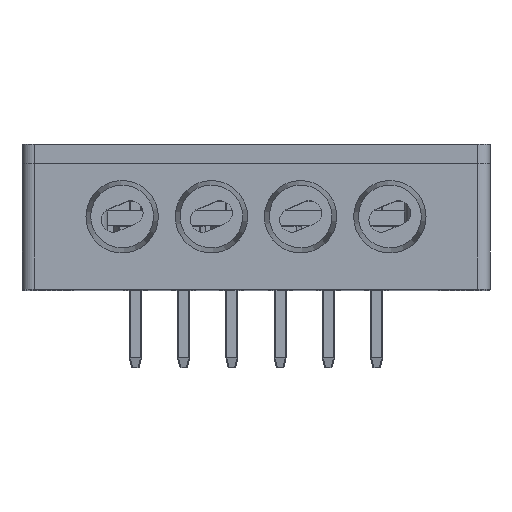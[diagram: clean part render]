
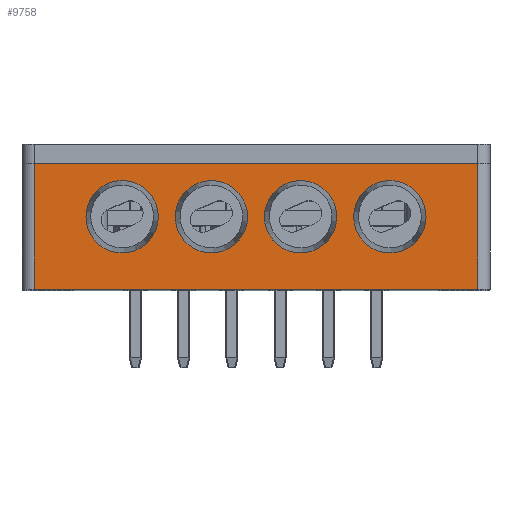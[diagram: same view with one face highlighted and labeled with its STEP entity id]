
A CAD part, top view. The second image highlights one B-rep face of the part: STEP entity #9758.
In plain terms, the highlighted planar face has unit normal (0, 0, 1).
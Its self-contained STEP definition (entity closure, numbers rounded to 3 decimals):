
#718 = LINE ( 'NONE', #18780, #25106 ) ;
#1174 = VECTOR ( 'NONE', #28727, 1000. ) ;
#1481 = LINE ( 'NONE', #25209, #6993 ) ;
#1848 = ORIENTED_EDGE ( 'NONE', *, *, #14710, .F. ) ;
#3041 = AXIS2_PLACEMENT_3D ( 'NONE', #10018, #26543, #12380 ) ;
#4483 = CARTESIAN_POINT ( 'NONE',  ( 6.3, 0., 0. ) ) ;
#5030 = CARTESIAN_POINT ( 'NONE',  ( 6.3, 5.2, 0. ) ) ;
#5080 = VERTEX_POINT ( 'NONE', #23492 ) ;
#5815 = CIRCLE ( 'NONE', #3041, 1.5 ) ;
#5995 = ORIENTED_EDGE ( 'NONE', *, *, #27636, .F. ) ;
#6945 = CARTESIAN_POINT ( 'NONE',  ( 11.45, 3., 0. ) ) ;
#6993 = VECTOR ( 'NONE', #24695, 1000. ) ;
#7463 = DIRECTION ( 'NONE',  ( 1., 0., 0. ) ) ;
#7503 = DIRECTION ( 'NONE',  ( 0., 0., 1. ) ) ;
#7509 = CARTESIAN_POINT ( 'NONE',  ( 9.95, 3., 0. ) ) ;
#8473 = LINE ( 'NONE', #10282, #20320 ) ;
#8932 = EDGE_CURVE ( 'NONE', #25071, #25071, #14513, .T. ) ;
#9426 = CARTESIAN_POINT ( 'NONE',  ( 15.15, 3., 0. ) ) ;
#9536 = CARTESIAN_POINT ( 'NONE',  ( 24.7, 0., 0. ) ) ;
#9758 = ADVANCED_FACE ( 'NONE', ( #10730, #28889, #22595, #16326, #23336 ), #13813, .F. ) ;
#9821 = ORIENTED_EDGE ( 'NONE', *, *, #15821, .F. ) ;
#9916 = CARTESIAN_POINT ( 'NONE',  ( 0., 5.2, 0. ) ) ;
#10018 = CARTESIAN_POINT ( 'NONE',  ( 17.35, 3., 0. ) ) ;
#10282 = CARTESIAN_POINT ( 'NONE',  ( 0., 0., 0. ) ) ;
#10388 = DIRECTION ( 'NONE',  ( -1., 0., 0. ) ) ;
#10412 = EDGE_CURVE ( 'NONE', #22688, #5080, #1481, .T. ) ;
#10457 = EDGE_CURVE ( 'NONE', #11714, #11714, #25129, .T. ) ;
#10585 = DIRECTION ( 'NONE',  ( 1., 0., 0. ) ) ;
#10646 = DIRECTION ( 'NONE',  ( 0., 0., 1. ) ) ;
#10687 = CARTESIAN_POINT ( 'NONE',  ( 13.65, 3., 0. ) ) ;
#10730 = FACE_OUTER_BOUND ( 'NONE', #26780, .T. ) ;
#10945 = EDGE_CURVE ( 'NONE', #18136, #12931, #718, .T. ) ;
#11319 = AXIS2_PLACEMENT_3D ( 'NONE', #24061, #24023, #24000 ) ;
#11714 = VERTEX_POINT ( 'NONE', #30644 ) ;
#12380 = DIRECTION ( 'NONE',  ( 1., 0., 0. ) ) ;
#12931 = VERTEX_POINT ( 'NONE', #4483 ) ;
#13468 = DIRECTION ( 'NONE',  ( -1., 0., 0. ) ) ;
#13640 = DIRECTION ( 'NONE',  ( 0., 0., -1. ) ) ;
#13734 = LINE ( 'NONE', #28692, #1174 ) ;
#13813 = PLANE ( 'NONE',  #25799 ) ;
#14420 = CARTESIAN_POINT ( 'NONE',  ( 18.85, 3., 0. ) ) ;
#14513 = CIRCLE ( 'NONE', #14919, 1.5 ) ;
#14710 = EDGE_CURVE ( 'NONE', #22858, #22858, #24882, .T. ) ;
#14919 = AXIS2_PLACEMENT_3D ( 'NONE', #7509, #7503, #7463 ) ;
#14936 = EDGE_LOOP ( 'NONE', ( #1848 ) ) ;
#15685 = EDGE_LOOP ( 'NONE', ( #17699 ) ) ;
#15821 = EDGE_CURVE ( 'NONE', #18136, #5080, #13734, .T. ) ;
#16134 = ORIENTED_EDGE ( 'NONE', *, *, #8932, .F. ) ;
#16326 = FACE_BOUND ( 'NONE', #15685, .T. ) ;
#17699 = ORIENTED_EDGE ( 'NONE', *, *, #28745, .F. ) ;
#17888 = DIRECTION ( 'NONE',  ( 0., -1., 0. ) ) ;
#18136 = VERTEX_POINT ( 'NONE', #5030 ) ;
#18419 = VERTEX_POINT ( 'NONE', #14420 ) ;
#18588 = AXIS2_PLACEMENT_3D ( 'NONE', #10687, #10646, #10585 ) ;
#18780 = CARTESIAN_POINT ( 'NONE',  ( 6.3, 0., 0. ) ) ;
#20320 = VECTOR ( 'NONE', #10388, 1000. ) ;
#22465 = EDGE_LOOP ( 'NONE', ( #16134 ) ) ;
#22595 = FACE_BOUND ( 'NONE', #14936, .T. ) ;
#22688 = VERTEX_POINT ( 'NONE', #9536 ) ;
#22858 = VERTEX_POINT ( 'NONE', #9426 ) ;
#23336 = FACE_BOUND ( 'NONE', #23777, .T. ) ;
#23492 = CARTESIAN_POINT ( 'NONE',  ( 24.7, 5.2, 0. ) ) ;
#23777 = EDGE_LOOP ( 'NONE', ( #28423 ) ) ;
#23842 = ORIENTED_EDGE ( 'NONE', *, *, #10412, .T. ) ;
#24000 = DIRECTION ( 'NONE',  ( 1., 0., 0. ) ) ;
#24023 = DIRECTION ( 'NONE',  ( 0., 0., 1. ) ) ;
#24061 = CARTESIAN_POINT ( 'NONE',  ( 21.05, 3., 0. ) ) ;
#24695 = DIRECTION ( 'NONE',  ( 0., 1., 0. ) ) ;
#24882 = CIRCLE ( 'NONE', #18588, 1.5 ) ;
#25071 = VERTEX_POINT ( 'NONE', #6945 ) ;
#25106 = VECTOR ( 'NONE', #17888, 1000. ) ;
#25129 = CIRCLE ( 'NONE', #11319, 1.5 ) ;
#25209 = CARTESIAN_POINT ( 'NONE',  ( 24.7, 5.2, 0. ) ) ;
#25799 = AXIS2_PLACEMENT_3D ( 'NONE', #9916, #13640, #13468 ) ;
#26543 = DIRECTION ( 'NONE',  ( 0., 0., 1. ) ) ;
#26780 = EDGE_LOOP ( 'NONE', ( #9821, #27897, #5995, #23842 ) ) ;
#27636 = EDGE_CURVE ( 'NONE', #22688, #12931, #8473, .T. ) ;
#27897 = ORIENTED_EDGE ( 'NONE', *, *, #10945, .T. ) ;
#28423 = ORIENTED_EDGE ( 'NONE', *, *, #10457, .F. ) ;
#28692 = CARTESIAN_POINT ( 'NONE',  ( 0., 5.2, 0. ) ) ;
#28727 = DIRECTION ( 'NONE',  ( 1., 0., 0. ) ) ;
#28745 = EDGE_CURVE ( 'NONE', #18419, #18419, #5815, .T. ) ;
#28889 = FACE_BOUND ( 'NONE', #22465, .T. ) ;
#30644 = CARTESIAN_POINT ( 'NONE',  ( 22.55, 3., 0. ) ) ;
